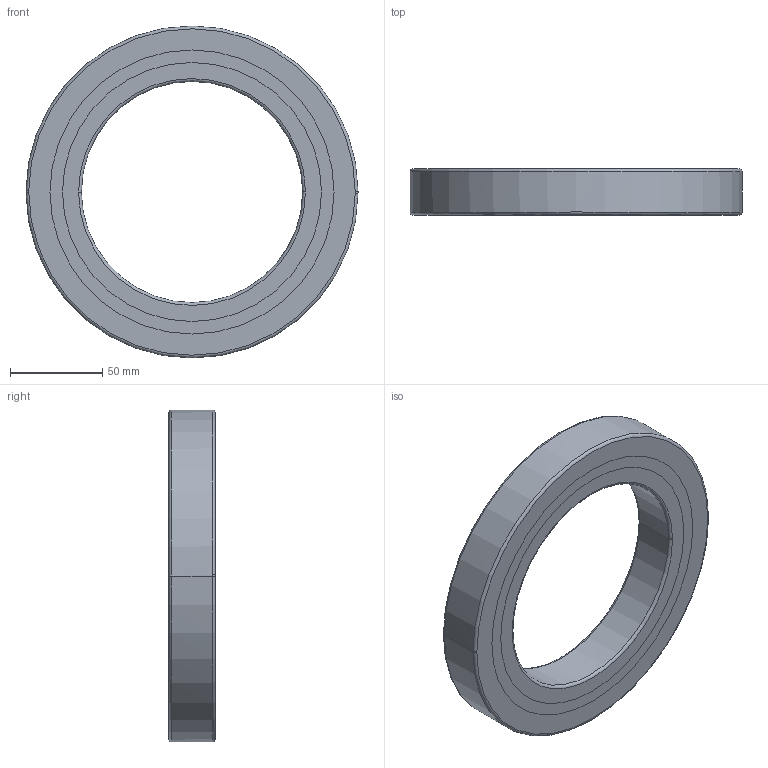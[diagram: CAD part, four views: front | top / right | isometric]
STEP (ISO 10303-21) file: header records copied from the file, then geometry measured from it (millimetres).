
FILE_DESCRIPTION(('no description'),'unknown implementation level');
FILE_NAME('CRBC12025_4.stp',' ',('HIWIN GmbH'),('CADClick - KiM GmbH - www.kimweb.de'),'unknown preprocess','ACIS','unknown authorization');
FILE_SCHEMA(('automotive_design'));
Length unit declared in the file: millimetre
Products named in the file (4): CRBC12025_1; CRBC12025_2; CRBC12025_3; CRBC12025
Bounding box: 180 x 25 x 180 mm (x, y, z)
Volume: 286482.2 mm3; surface area: 83733.6 mm2
Topology: 4 solids, 4 shells, 40 faces, 88 edges, 56 vertices
Faces by surface type: cylinder 16, torus 16, plane 8
Entity records: 2289 total; most frequent: DIRECTION 248, STYLED_ITEM 188, PRESENTATION_STYLE_ASSIGNMENT 188, CARTESIAN_POINT 188, COLOUR_RGB 188, ORIENTED_EDGE 176, AXIS2_PLACEMENT_3D 116, EDGE_CURVE 88
